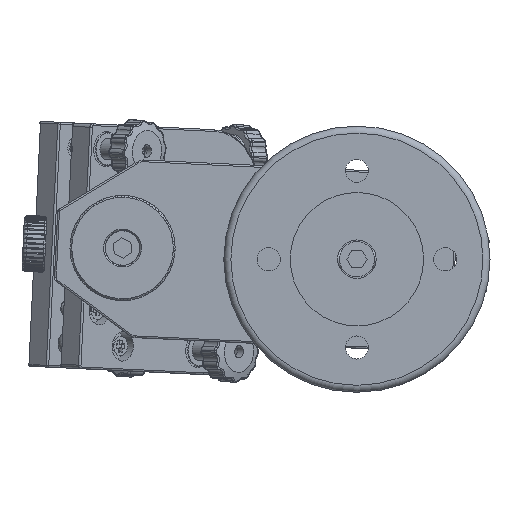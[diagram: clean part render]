
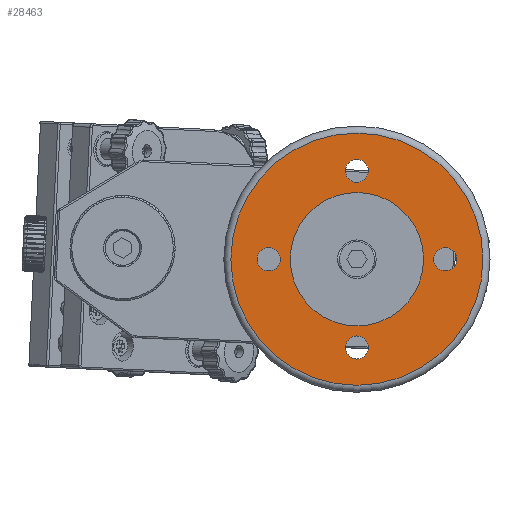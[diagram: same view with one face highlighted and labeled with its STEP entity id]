
A CAD part, front view. The second image highlights one B-rep face of the part: STEP entity #28463.
In plain terms, the highlighted planar face has unit normal (0, -1, 0).
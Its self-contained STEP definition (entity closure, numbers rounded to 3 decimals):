
#2366 = EDGE_LOOP ( 'NONE', ( #53746 ) ) ;
#2368 = EDGE_LOOP ( 'NONE', ( #53745 ) ) ;
#2375 = EDGE_LOOP ( 'NONE', ( #53747 ) ) ;
#2377 = EDGE_LOOP ( 'NONE', ( #53748 ) ) ;
#2379 = EDGE_LOOP ( 'NONE', ( #53749 ) ) ;
#2381 = EDGE_LOOP ( 'NONE', ( #53750 ) ) ;
#6136 = CIRCLE ( 'NONE', #50591, 19.05 ) ;
#6137 = CIRCLE ( 'NONE', #50593, 36. ) ;
#6145 = CIRCLE ( 'NONE', #50610, 3.3 ) ;
#6149 = CIRCLE ( 'NONE', #50619, 3.3 ) ;
#6153 = CIRCLE ( 'NONE', #50627, 3.3 ) ;
#6156 = CIRCLE ( 'NONE', #50634, 3.3 ) ;
#11098 = CARTESIAN_POINT ( 'NONE',  ( -67.546, -221.31, 0. ) ) ;
#11099 = DIRECTION ( 'NONE',  ( 0., 1., 0. ) ) ;
#11100 = DIRECTION ( 'NONE',  ( 0., 0., 1. ) ) ;
#11101 = CARTESIAN_POINT ( 'NONE',  ( -67.546, -221.31, 0. ) ) ;
#11102 = DIRECTION ( 'NONE',  ( 0., -1., 0. ) ) ;
#11103 = DIRECTION ( 'NONE',  ( 0., 0., 1. ) ) ;
#11125 = CARTESIAN_POINT ( 'NONE',  ( -67.546, -221.31, -25.2 ) ) ;
#11126 = DIRECTION ( 'NONE',  ( 0., 1., 0. ) ) ;
#11127 = DIRECTION ( 'NONE',  ( 0., 0., 1. ) ) ;
#11137 = CARTESIAN_POINT ( 'NONE',  ( -92.746, -221.31, 0. ) ) ;
#11138 = DIRECTION ( 'NONE',  ( 0., 1., 0. ) ) ;
#11139 = DIRECTION ( 'NONE',  ( 0., 0., 1. ) ) ;
#11149 = CARTESIAN_POINT ( 'NONE',  ( -42.346, -221.31, 0. ) ) ;
#11150 = DIRECTION ( 'NONE',  ( 0., 1., 0. ) ) ;
#11151 = DIRECTION ( 'NONE',  ( 0., 0., 1. ) ) ;
#11158 = CARTESIAN_POINT ( 'NONE',  ( -67.546, -221.31, 25.2 ) ) ;
#11159 = DIRECTION ( 'NONE',  ( 0., 1., 0. ) ) ;
#11160 = DIRECTION ( 'NONE',  ( 0., 0., 1. ) ) ;
#14129 = VERTEX_POINT ( 'NONE', #16657 ) ;
#14130 = VERTEX_POINT ( 'NONE', #16658 ) ;
#14138 = VERTEX_POINT ( 'NONE', #16666 ) ;
#14142 = VERTEX_POINT ( 'NONE', #16670 ) ;
#14146 = VERTEX_POINT ( 'NONE', #16674 ) ;
#14149 = VERTEX_POINT ( 'NONE', #16677 ) ;
#16657 = CARTESIAN_POINT ( 'NONE',  ( -67.546, -221.31, 19.05 ) ) ;
#16658 = CARTESIAN_POINT ( 'NONE',  ( -67.546, -221.31, 36. ) ) ;
#16666 = CARTESIAN_POINT ( 'NONE',  ( -67.546, -221.31, -21.9 ) ) ;
#16670 = CARTESIAN_POINT ( 'NONE',  ( -92.746, -221.31, 3.3 ) ) ;
#16674 = CARTESIAN_POINT ( 'NONE',  ( -42.346, -221.31, 3.3 ) ) ;
#16677 = CARTESIAN_POINT ( 'NONE',  ( -67.546, -221.31, 28.5 ) ) ;
#28463 = ADVANCED_FACE ( 'NONE', ( #35146, #35151, #35145, #35147, #35149, #35152 ), #38913, .F. ) ;
#35145 = FACE_BOUND ( 'NONE', #2375, .T. ) ;
#35146 = FACE_OUTER_BOUND ( 'NONE', #2368, .T. ) ;
#35147 = FACE_BOUND ( 'NONE', #2377, .T. ) ;
#35149 = FACE_BOUND ( 'NONE', #2379, .T. ) ;
#35151 = FACE_BOUND ( 'NONE', #2366, .T. ) ;
#35152 = FACE_BOUND ( 'NONE', #2381, .T. ) ;
#37306 = AXIS2_PLACEMENT_3D ( 'NONE', #38915, #38912, #38917 ) ;
#38912 = DIRECTION ( 'NONE',  ( 0., 1., 0. ) ) ;
#38913 = PLANE ( 'NONE',  #37306 ) ;
#38915 = CARTESIAN_POINT ( 'NONE',  ( -67.546, -221.31, 0. ) ) ;
#38917 = DIRECTION ( 'NONE',  ( 0., 0., 1. ) ) ;
#50591 = AXIS2_PLACEMENT_3D ( 'NONE', #11098, #11099, #11100 ) ;
#50593 = AXIS2_PLACEMENT_3D ( 'NONE', #11101, #11102, #11103 ) ;
#50610 = AXIS2_PLACEMENT_3D ( 'NONE', #11125, #11126, #11127 ) ;
#50619 = AXIS2_PLACEMENT_3D ( 'NONE', #11137, #11138, #11139 ) ;
#50627 = AXIS2_PLACEMENT_3D ( 'NONE', #11149, #11150, #11151 ) ;
#50634 = AXIS2_PLACEMENT_3D ( 'NONE', #11158, #11159, #11160 ) ;
#53745 = ORIENTED_EDGE ( 'NONE', *, *, #54913, .T. ) ;
#53746 = ORIENTED_EDGE ( 'NONE', *, *, #54932, .T. ) ;
#53747 = ORIENTED_EDGE ( 'NONE', *, *, #54929, .T. ) ;
#53748 = ORIENTED_EDGE ( 'NONE', *, *, #54925, .T. ) ;
#53749 = ORIENTED_EDGE ( 'NONE', *, *, #54921, .T. ) ;
#53750 = ORIENTED_EDGE ( 'NONE', *, *, #54912, .T. ) ;
#54912 = EDGE_CURVE ( 'NONE', #14129, #14129, #6136, .T. ) ;
#54913 = EDGE_CURVE ( 'NONE', #14130, #14130, #6137, .T. ) ;
#54921 = EDGE_CURVE ( 'NONE', #14138, #14138, #6145, .T. ) ;
#54925 = EDGE_CURVE ( 'NONE', #14142, #14142, #6149, .T. ) ;
#54929 = EDGE_CURVE ( 'NONE', #14146, #14146, #6153, .T. ) ;
#54932 = EDGE_CURVE ( 'NONE', #14149, #14149, #6156, .T. ) ;
